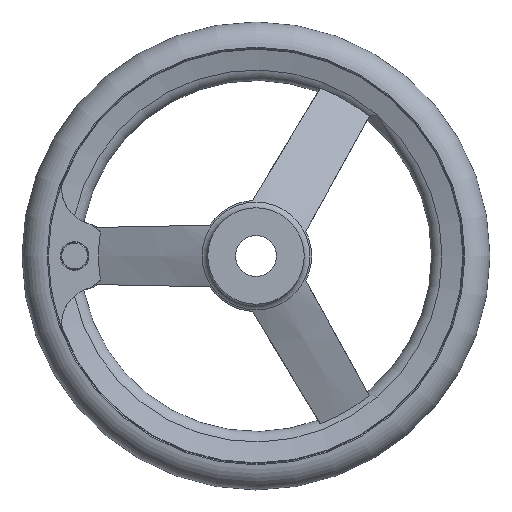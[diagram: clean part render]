
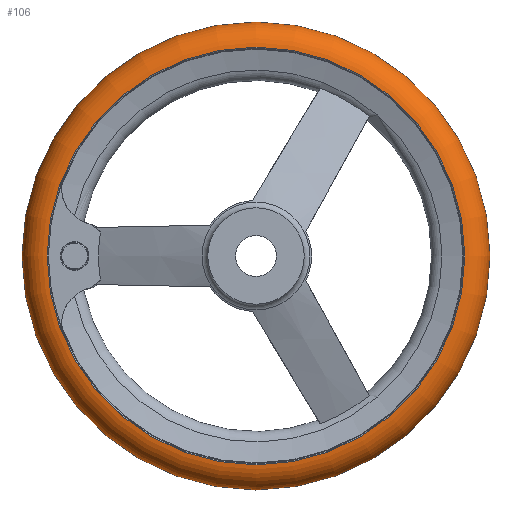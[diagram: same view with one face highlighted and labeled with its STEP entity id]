
A CAD part, left-side view. The second image highlights one B-rep face of the part: STEP entity #106.
In plain terms, the highlighted toroidal (fillet/blend) face has major radius 70.992 mm and minor radius 9.008 mm.
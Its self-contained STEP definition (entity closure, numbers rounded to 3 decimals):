
#106 = ADVANCED_FACE( '', ( #202, #203, #204 ), #205, .T. );
#202 = FACE_BOUND( '', #353, .T. );
#203 = FACE_OUTER_BOUND( '', #354, .T. );
#204 = FACE_OUTER_BOUND( '', #355, .T. );
#205 = TOROIDAL_SURFACE( '', #356, 70.992, 9.008 );
#353 = VERTEX_LOOP( '', #627 );
#354 = EDGE_LOOP( '', ( #628 ) );
#355 = EDGE_LOOP( '', ( #629 ) );
#356 = AXIS2_PLACEMENT_3D( '', #630, #631, #632 );
#627 = VERTEX_POINT( '', #790 );
#628 = ORIENTED_EDGE( '', *, *, #789, .T. );
#629 = ORIENTED_EDGE( '', *, *, #783, .F. );
#630 = CARTESIAN_POINT( '', ( 31., 0., 0. ) );
#631 = DIRECTION( '', ( 1., 0., 0. ) );
#632 = DIRECTION( '', ( 0., 1., 0. ) );
#783 = EDGE_CURVE( '', #933, #933, #934, .T. );
#789 = EDGE_CURVE( '', #944, #944, #945, .T. );
#790 = CARTESIAN_POINT( '', ( 31., 80., 0. ) );
#933 = VERTEX_POINT( '', #1475 );
#934 = CIRCLE( '', #1476, 71.375 );
#944 = VERTEX_POINT( '', #1486 );
#945 = CIRCLE( '', #1487, 71.375 );
#1475 = CARTESIAN_POINT( '', ( 40., 71.375, 0. ) );
#1476 = AXIS2_PLACEMENT_3D( '', #1618, #1619, #1620 );
#1486 = CARTESIAN_POINT( '', ( 22., 71.375, 0. ) );
#1487 = AXIS2_PLACEMENT_3D( '', #1636, #1637, #1638 );
#1618 = CARTESIAN_POINT( '', ( 40., 0., 0. ) );
#1619 = DIRECTION( '', ( 1., 0., 0. ) );
#1620 = DIRECTION( '', ( 0., 1., 0. ) );
#1636 = CARTESIAN_POINT( '', ( 22., 0., 0. ) );
#1637 = DIRECTION( '', ( 1., 0., 0. ) );
#1638 = DIRECTION( '', ( 0., 1., 0. ) );
